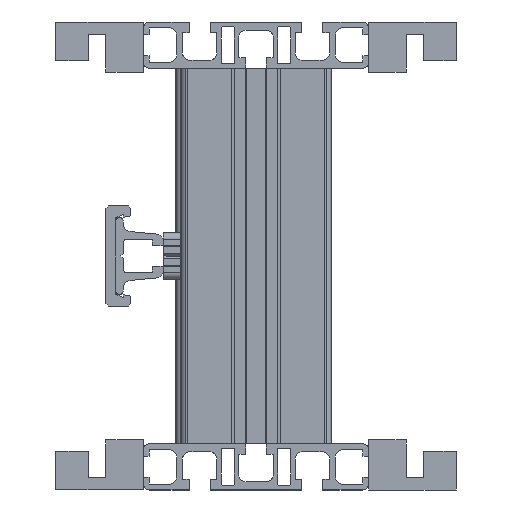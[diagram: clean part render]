
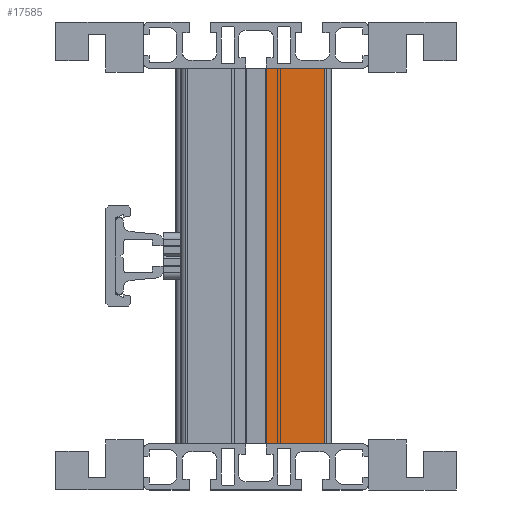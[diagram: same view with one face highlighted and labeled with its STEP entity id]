
A CAD part, left-side view. The second image highlights one B-rep face of the part: STEP entity #17585.
In plain terms, the highlighted planar face has unit normal (-1, 0, 0).
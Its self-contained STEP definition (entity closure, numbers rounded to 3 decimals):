
#2290 = VERTEX_POINT ( 'NONE', #18903 ) ;
#2809 = AXIS2_PLACEMENT_3D ( 'NONE', #13353, #32175, #8161 ) ;
#3282 = CARTESIAN_POINT ( 'NONE',  ( -420., -72.5, 75. ) ) ;
#3916 = VECTOR ( 'NONE', #15667, 1000. ) ;
#4288 = CARTESIAN_POINT ( 'NONE',  ( -420., -49.15, -75. ) ) ;
#4598 = LINE ( 'NONE', #27268, #25922 ) ;
#4607 = EDGE_CURVE ( 'NONE', #27541, #28345, #27376, .T. ) ;
#5816 = DIRECTION ( 'NONE',  ( 0., 1., 0. ) ) ;
#5858 = CARTESIAN_POINT ( 'NONE',  ( -420., -72.5, -75. ) ) ;
#7423 = VERTEX_POINT ( 'NONE', #3282 ) ;
#8161 = DIRECTION ( 'NONE',  ( 0., 0., -1. ) ) ;
#8495 = LINE ( 'NONE', #12893, #3916 ) ;
#10635 = PLANE ( 'NONE',  #2809 ) ;
#10798 = DIRECTION ( 'NONE',  ( 0., 0., 1. ) ) ;
#12776 = VECTOR ( 'NONE', #10798, 1000. ) ;
#12893 = CARTESIAN_POINT ( 'NONE',  ( -420., -49.15, -75. ) ) ;
#13353 = CARTESIAN_POINT ( 'NONE',  ( -420., -72.5, -75. ) ) ;
#14178 = EDGE_CURVE ( 'NONE', #28345, #2290, #8495, .T. ) ;
#14450 = FACE_OUTER_BOUND ( 'NONE', #20247, .T. ) ;
#14893 = ORIENTED_EDGE ( 'NONE', *, *, #29557, .T. ) ;
#15667 = DIRECTION ( 'NONE',  ( 0., 0., 1. ) ) ;
#17585 = ADVANCED_FACE ( 'NONE', ( #14450 ), #10635, .F. ) ;
#18230 = DIRECTION ( 'NONE',  ( 0., 1., 0. ) ) ;
#18903 = CARTESIAN_POINT ( 'NONE',  ( -420., -49.15, 75. ) ) ;
#20207 = EDGE_CURVE ( 'NONE', #27541, #7423, #28983, .T. ) ;
#20247 = EDGE_LOOP ( 'NONE', ( #14893, #31704, #26882, #29577 ) ) ;
#21953 = VECTOR ( 'NONE', #18230, 1000. ) ;
#23070 = CARTESIAN_POINT ( 'NONE',  ( -420., -72.5, -75. ) ) ;
#25922 = VECTOR ( 'NONE', #5816, 1000. ) ;
#26882 = ORIENTED_EDGE ( 'NONE', *, *, #4607, .F. ) ;
#27268 = CARTESIAN_POINT ( 'NONE',  ( -420., -72.5, 75. ) ) ;
#27376 = LINE ( 'NONE', #34142, #21953 ) ;
#27541 = VERTEX_POINT ( 'NONE', #23070 ) ;
#28345 = VERTEX_POINT ( 'NONE', #4288 ) ;
#28983 = LINE ( 'NONE', #5858, #12776 ) ;
#29557 = EDGE_CURVE ( 'NONE', #7423, #2290, #4598, .T. ) ;
#29577 = ORIENTED_EDGE ( 'NONE', *, *, #20207, .T. ) ;
#31704 = ORIENTED_EDGE ( 'NONE', *, *, #14178, .F. ) ;
#32175 = DIRECTION ( 'NONE',  ( 1., 0., 0. ) ) ;
#34142 = CARTESIAN_POINT ( 'NONE',  ( -420., -72.5, -75. ) ) ;
